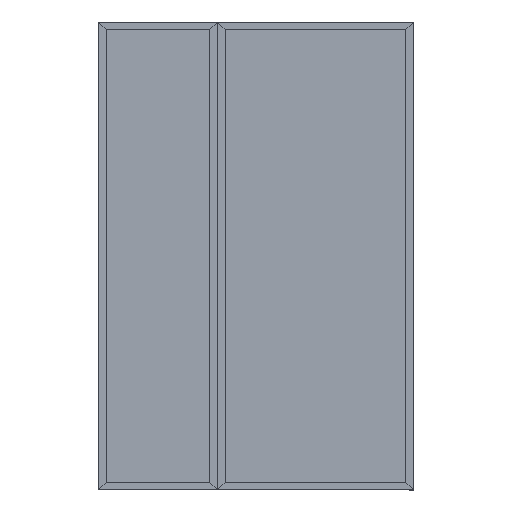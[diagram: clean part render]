
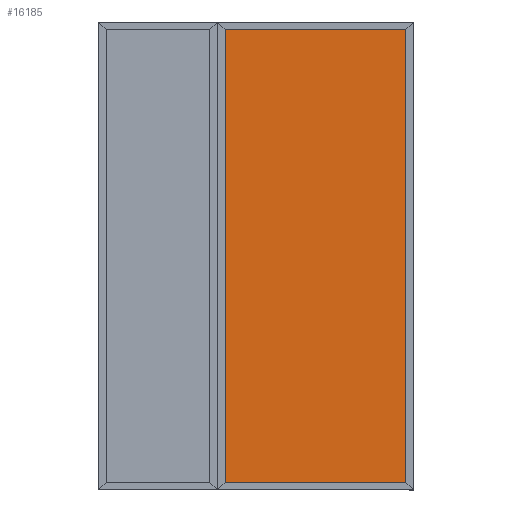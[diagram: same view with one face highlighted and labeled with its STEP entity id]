
A CAD part, top view. The second image highlights one B-rep face of the part: STEP entity #16185.
In plain terms, the highlighted planar face has unit normal (0, 0, 1).
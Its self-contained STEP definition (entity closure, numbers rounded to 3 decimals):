
#1443 = EDGE_CURVE ( 'NONE', #43445, #22819, #44362, .T. ) ;
#1687 = VERTEX_POINT ( 'NONE', #11910 ) ;
#4130 = VECTOR ( 'NONE', #9274, 1000. ) ;
#5088 = DIRECTION ( 'NONE',  ( 0., 1., 0. ) ) ;
#8023 = CARTESIAN_POINT ( 'NONE',  ( 0., 0., -13.25 ) ) ;
#8223 = ORIENTED_EDGE ( 'NONE', *, *, #36252, .F. ) ;
#8987 = DIRECTION ( 'NONE',  ( -1., 0., 0. ) ) ;
#9274 = DIRECTION ( 'NONE',  ( 0., 1., 0. ) ) ;
#10686 = VERTEX_POINT ( 'NONE', #38231 ) ;
#11301 = DIRECTION ( 'NONE',  ( 0., 0., -1. ) ) ;
#11910 = CARTESIAN_POINT ( 'NONE',  ( -465.07, -1162.2, -13.25 ) ) ;
#13801 = DIRECTION ( 'NONE',  ( -1., 0., 0. ) ) ;
#16071 = LINE ( 'NONE', #30363, #4130 ) ;
#16185 = ADVANCED_FACE ( 'NONE', ( #28882 ), #43647, .F. ) ;
#16543 = ORIENTED_EDGE ( 'NONE', *, *, #20933, .F. ) ;
#19395 = VECTOR ( 'NONE', #8987, 1000. ) ;
#19785 = EDGE_CURVE ( 'NONE', #10686, #43445, #16071, .T. ) ;
#20077 = CARTESIAN_POINT ( 'NONE',  ( -465.07, 1162.2, -13.25 ) ) ;
#20933 = EDGE_CURVE ( 'NONE', #1687, #22819, #39994, .T. ) ;
#22819 = VERTEX_POINT ( 'NONE', #20077 ) ;
#23275 = CARTESIAN_POINT ( 'NONE',  ( 0., 1162.2, -13.25 ) ) ;
#23668 = CARTESIAN_POINT ( 'NONE',  ( 0., -1162.2, -13.25 ) ) ;
#28882 = FACE_OUTER_BOUND ( 'NONE', #44860, .T. ) ;
#29564 = DIRECTION ( 'NONE',  ( -1., 0., 0. ) ) ;
#30363 = CARTESIAN_POINT ( 'NONE',  ( 465.07, 0., -13.25 ) ) ;
#35426 = ORIENTED_EDGE ( 'NONE', *, *, #19785, .T. ) ;
#36252 = EDGE_CURVE ( 'NONE', #10686, #1687, #42171, .T. ) ;
#38231 = CARTESIAN_POINT ( 'NONE',  ( 465.07, -1162.2, -13.25 ) ) ;
#39994 = LINE ( 'NONE', #43291, #43761 ) ;
#40638 = CARTESIAN_POINT ( 'NONE',  ( 465.07, 1162.2, -13.25 ) ) ;
#40743 = ORIENTED_EDGE ( 'NONE', *, *, #1443, .T. ) ;
#42171 = LINE ( 'NONE', #23668, #42551 ) ;
#42551 = VECTOR ( 'NONE', #13801, 1000. ) ;
#43291 = CARTESIAN_POINT ( 'NONE',  ( -465.07, 0., -13.25 ) ) ;
#43445 = VERTEX_POINT ( 'NONE', #40638 ) ;
#43647 = PLANE ( 'NONE',  #45112 ) ;
#43761 = VECTOR ( 'NONE', #5088, 1000. ) ;
#44362 = LINE ( 'NONE', #23275, #19395 ) ;
#44860 = EDGE_LOOP ( 'NONE', ( #16543, #8223, #35426, #40743 ) ) ;
#45112 = AXIS2_PLACEMENT_3D ( 'NONE', #8023, #11301, #29564 ) ;
